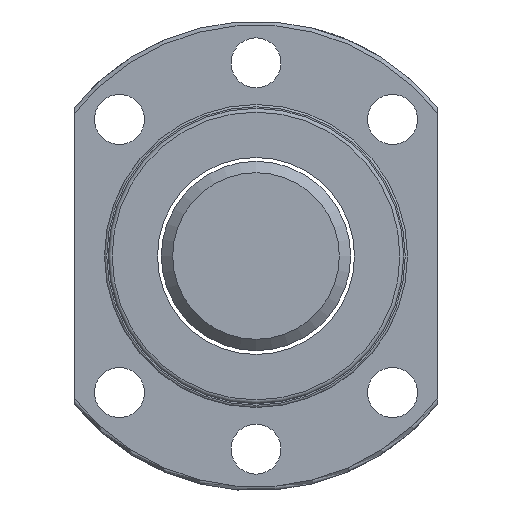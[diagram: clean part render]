
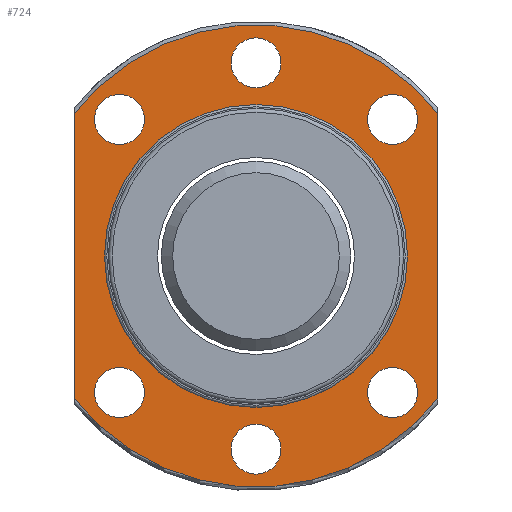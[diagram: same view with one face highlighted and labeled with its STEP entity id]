
A CAD part, left-side view. The second image highlights one B-rep face of the part: STEP entity #724.
In plain terms, the highlighted planar face has unit normal (-1, 0, 0).
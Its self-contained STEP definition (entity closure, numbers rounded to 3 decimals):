
#75=PLANE('',#834);
#109=CIRCLE('',#788,30.5);
#118=CIRCLE('',#807,3.3);
#120=CIRCLE('',#810,3.3);
#122=CIRCLE('',#813,3.3);
#124=CIRCLE('',#816,3.3);
#126=CIRCLE('',#819,3.3);
#128=CIRCLE('',#822,3.3);
#132=CIRCLE('',#829,20.);
#135=CIRCLE('',#835,30.5);
#240=ORIENTED_EDGE('',*,*,#375,.T.);
#241=ORIENTED_EDGE('',*,*,#335,.F.);
#242=ORIENTED_EDGE('',*,*,#352,.F.);
#243=ORIENTED_EDGE('',*,*,#378,.F.);
#244=ORIENTED_EDGE('',*,*,#357,.T.);
#245=ORIENTED_EDGE('',*,*,#363,.F.);
#246=ORIENTED_EDGE('',*,*,#365,.F.);
#247=ORIENTED_EDGE('',*,*,#371,.F.);
#248=ORIENTED_EDGE('',*,*,#369,.F.);
#249=ORIENTED_EDGE('',*,*,#367,.F.);
#250=ORIENTED_EDGE('',*,*,#361,.F.);
#335=EDGE_CURVE('',#416,#417,#109,.T.);
#352=EDGE_CURVE('',#431,#416,#473,.T.);
#357=EDGE_CURVE('',#435,#417,#475,.T.);
#361=EDGE_CURVE('',#438,#438,#118,.T.);
#363=EDGE_CURVE('',#440,#440,#120,.T.);
#365=EDGE_CURVE('',#442,#442,#122,.T.);
#367=EDGE_CURVE('',#444,#444,#124,.T.);
#369=EDGE_CURVE('',#446,#446,#126,.T.);
#371=EDGE_CURVE('',#448,#448,#128,.T.);
#375=EDGE_CURVE('',#452,#452,#132,.T.);
#378=EDGE_CURVE('',#435,#431,#135,.T.);
#416=VERTEX_POINT('',#1156);
#417=VERTEX_POINT('',#1158);
#431=VERTEX_POINT('',#1230);
#435=VERTEX_POINT('',#1253);
#438=VERTEX_POINT('',#1265);
#440=VERTEX_POINT('',#1270);
#442=VERTEX_POINT('',#1275);
#444=VERTEX_POINT('',#1280);
#446=VERTEX_POINT('',#1285);
#448=VERTEX_POINT('',#1290);
#452=VERTEX_POINT('',#1301);
#473=LINE('',#1231,#483);
#475=LINE('',#1252,#485);
#483=VECTOR('',#942,1000.);
#485=VECTOR('',#946,1000.);
#538=EDGE_LOOP('',(#240));
#539=EDGE_LOOP('',(#241,#242,#243,#244));
#540=EDGE_LOOP('',(#245));
#541=EDGE_LOOP('',(#246));
#542=EDGE_LOOP('',(#247));
#543=EDGE_LOOP('',(#248));
#544=EDGE_LOOP('',(#249));
#545=EDGE_LOOP('',(#250));
#634=FACE_BOUND('',#538,.T.);
#635=FACE_BOUND('',#539,.T.);
#636=FACE_BOUND('',#540,.T.);
#637=FACE_BOUND('',#541,.T.);
#638=FACE_BOUND('',#542,.T.);
#639=FACE_BOUND('',#543,.T.);
#640=FACE_BOUND('',#544,.T.);
#641=FACE_BOUND('',#545,.T.);
#724=ADVANCED_FACE('',(#634,#635,#636,#637,#638,#639,#640,#641),#75,.T.);
#788=AXIS2_PLACEMENT_3D('',#1157,#908,#909);
#807=AXIS2_PLACEMENT_3D('',#1264,#952,#953);
#810=AXIS2_PLACEMENT_3D('',#1269,#958,#959);
#813=AXIS2_PLACEMENT_3D('',#1274,#964,#965);
#816=AXIS2_PLACEMENT_3D('',#1279,#970,#971);
#819=AXIS2_PLACEMENT_3D('',#1284,#976,#977);
#822=AXIS2_PLACEMENT_3D('',#1289,#982,#983);
#829=AXIS2_PLACEMENT_3D('',#1300,#996,#997);
#834=AXIS2_PLACEMENT_3D('',#1306,#1006,#1007);
#835=AXIS2_PLACEMENT_3D('',#1307,#1008,#1009);
#908=DIRECTION('',(1.,0.,0.));
#909=DIRECTION('',(0.,1.,0.));
#942=DIRECTION('',(0.,0.,1.));
#946=DIRECTION('',(0.,0.,1.));
#952=DIRECTION('',(-1.,0.,0.));
#953=DIRECTION('',(0.,-1.,0.));
#958=DIRECTION('',(-1.,0.,0.));
#959=DIRECTION('',(0.,-1.,0.));
#964=DIRECTION('',(-1.,0.,0.));
#965=DIRECTION('',(0.,-1.,0.));
#970=DIRECTION('',(-1.,0.,0.));
#971=DIRECTION('',(0.,-1.,0.));
#976=DIRECTION('',(-1.,0.,0.));
#977=DIRECTION('',(0.,-1.,0.));
#982=DIRECTION('',(-1.,0.,0.));
#983=DIRECTION('',(0.,-1.,0.));
#996=DIRECTION('',(1.,0.,0.));
#997=DIRECTION('',(0.,1.,0.));
#1006=DIRECTION('',(-1.,0.,0.));
#1007=DIRECTION('',(0.,-1.,0.));
#1008=DIRECTION('',(1.,0.,0.));
#1009=DIRECTION('',(0.,1.,0.));
#1156=CARTESIAN_POINT('',(-25.,24.,18.822));
#1157=CARTESIAN_POINT('',(-25.,0.,0.));
#1158=CARTESIAN_POINT('',(-25.,-24.,18.822));
#1230=CARTESIAN_POINT('',(-25.,24.,-18.822));
#1231=CARTESIAN_POINT('',(-25.,24.,0.));
#1252=CARTESIAN_POINT('',(-25.,-24.,0.));
#1253=CARTESIAN_POINT('',(-25.,-24.,-18.822));
#1264=CARTESIAN_POINT('',(-25.,0.,-25.5));
#1265=CARTESIAN_POINT('',(-25.,-3.3,-25.5));
#1269=CARTESIAN_POINT('',(-25.,0.,25.5));
#1270=CARTESIAN_POINT('',(-25.,-3.3,25.5));
#1274=CARTESIAN_POINT('',(-25.,18.031,-18.031));
#1275=CARTESIAN_POINT('',(-25.,14.731,-18.031));
#1279=CARTESIAN_POINT('',(-25.,-18.031,-18.031));
#1280=CARTESIAN_POINT('',(-25.,-21.331,-18.031));
#1284=CARTESIAN_POINT('',(-25.,-18.031,18.031));
#1285=CARTESIAN_POINT('',(-25.,-21.331,18.031));
#1289=CARTESIAN_POINT('',(-25.,18.031,18.031));
#1290=CARTESIAN_POINT('',(-25.,14.731,18.031));
#1300=CARTESIAN_POINT('',(-25.,0.,0.));
#1301=CARTESIAN_POINT('',(-25.,20.,0.));
#1306=CARTESIAN_POINT('',(-25.,25.25,0.));
#1307=CARTESIAN_POINT('',(-25.,0.,0.));
